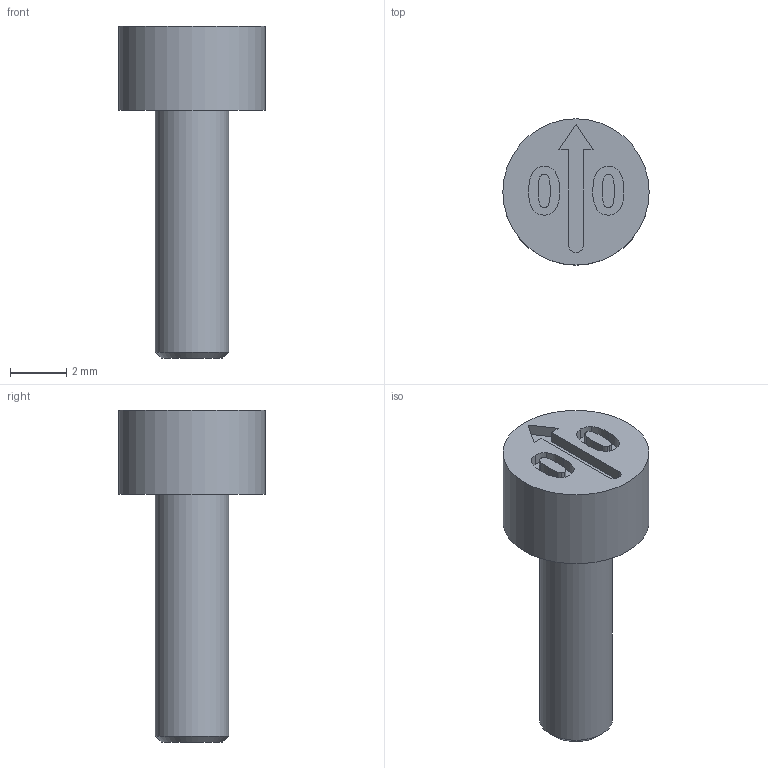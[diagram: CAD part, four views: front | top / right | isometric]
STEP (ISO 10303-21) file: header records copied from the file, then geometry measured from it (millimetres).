
FILE_DESCRIPTION(/* description */ (''),/* implementation_level */ '2;1');
FILE_NAME(/* name */ 'IMC-D1800-IY10-0.step',/* time_stamp */ '2025-06-17T11:07:12+02:00',/* author */ (''),/* organization */ (''),/* preprocessor_version */ 'ST-DEVELOPER v20.1',/* originating_system */ 'Autodesk Translation Framework v14.10.0.0',/* authorisation */ '');
FILE_SCHEMA (('AUTOMOTIVE_DESIGN { 1 0 10303 214 3 1 1 }'));
Length unit declared in the file: millimetre
Products named in the file (1): D1800-IY10-0
Bounding box: 5.2 x 5.2 x 11.8 mm (x, y, z)
Volume: 108.4 mm3; surface area: 172.5 mm2
Topology: 1 solids, 1 shells, 58 faces, 149 edges, 99 vertices
Faces by surface type: bspline 40, plane 14, cylinder 3, cone 1
Full cylindrical faces by diameter (mm): 2.6 x1, 5.2 x1
Entity records: 2165 total; most frequent: CARTESIAN_POINT 987, ORIENTED_EDGE 298, EDGE_CURVE 149, DIRECTION 114, VERTEX_POINT 99, B_SPLINE_CURVE_WITH_KNOTS 80, EDGE_LOOP 64, LINE 62
